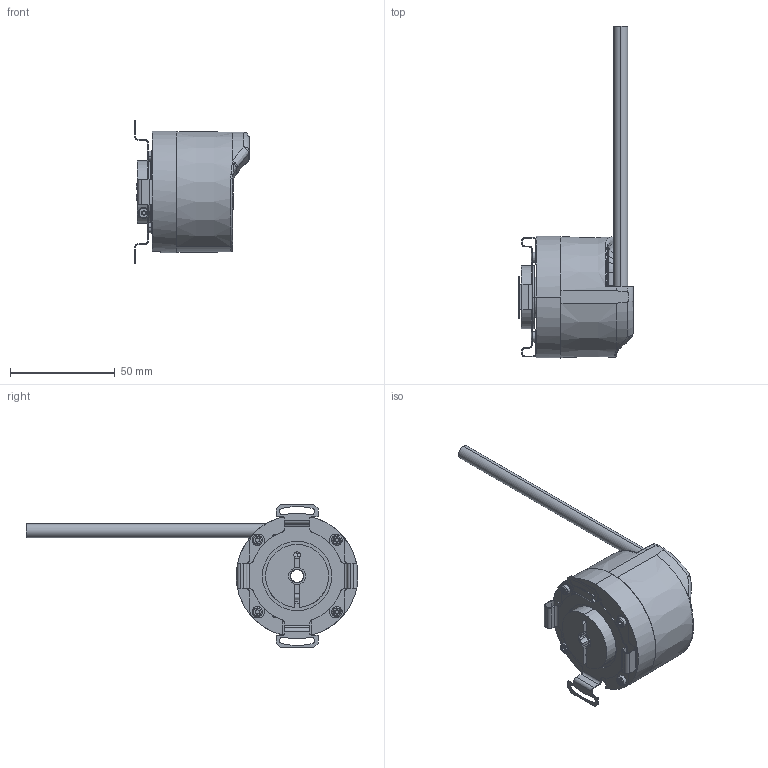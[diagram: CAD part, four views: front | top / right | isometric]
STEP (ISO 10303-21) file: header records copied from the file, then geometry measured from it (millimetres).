
FILE_DESCRIPTION (( 'STEP AP203' ), '1' );
FILE_NAME ('K58I.OXX.XXXXX.XH12506.6XT11.XXXX.step', '2025-12-08T12:56:48', ( '' ), ( '' ), 'SwSTEP 2.0', 'SolidWorks 2021', '' );
FILE_SCHEMA (( 'CONFIG_CONTROL_DESIGN' ));
Length unit declared in the file: millimetre
Products named in the file (1): K58I.OXX.XXXXX.XH12506.6XT11.XXXX
Bounding box: 54.69 x 158.1 x 68 mm (x, y, z)
Volume: 104105.9 mm3; surface area: 38659.1 mm2
Topology: 6 solids, 11 shells, 731 faces, 1806 edges, 1103 vertices
Faces by surface type: cylinder 285, plane 248, cone 70, torus 61, bspline 52, sphere 15
Entity records: 24835 total; most frequent: CARTESIAN_POINT 7449, DIRECTION 3789, ORIENTED_EDGE 3562, EDGE_CURVE 1781, AXIS2_PLACEMENT_3D 1491, VERTEX_POINT 1103, CIRCLE 811, LINE 807
